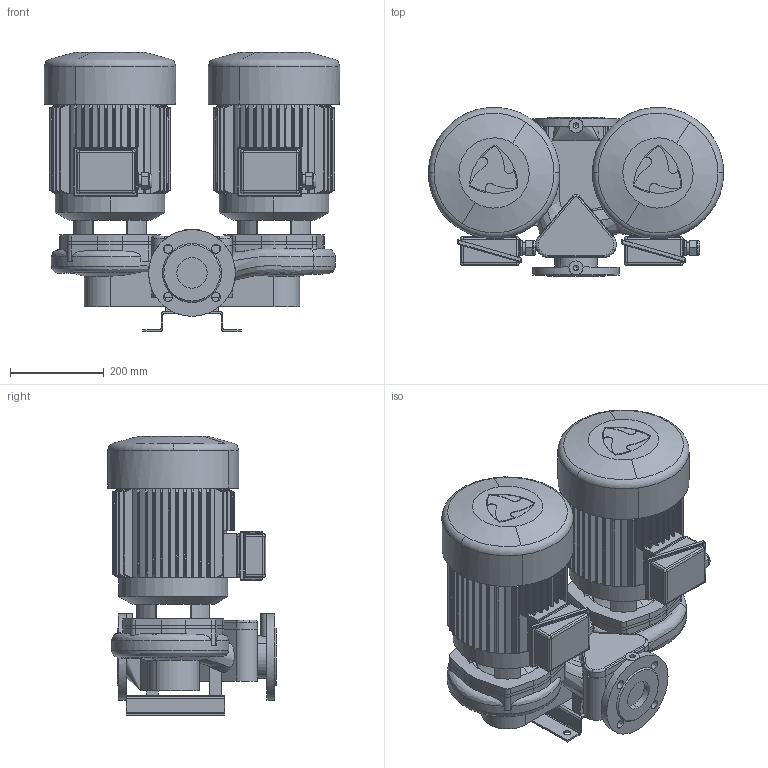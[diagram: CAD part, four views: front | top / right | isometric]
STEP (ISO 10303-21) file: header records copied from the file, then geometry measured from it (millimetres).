
FILE_DESCRIPTION(('STEP AP214'),'1');
FILE_NAME('export.stp','2018-05-30T07:51:04',(' '),(' '),'Spatial InterOp 3D',' ',' ');
FILE_SCHEMA(('AUTOMOTIVE_DESIGN { 1 0 10303 214 1 1 1 1 }'));
Length unit declared in the file: millimetre
Products named in the file (15): W_T65B2750_KP132; V_TLL65AB80A1102; V_PPT65AB; V_JALKA35973; V_MOKN132; RU_OKN_132; TSUOJA_OKN_132_133; KYTKOTELO_OKN_100_133; V_Mkp-132_F19; V_EKF19OKN132
Assembly tree (16 placements, depth 4):
  W_T65B2750_KP132
    V_TLL65AB80A1102  x2
    V_PPT65AB
    V_JALKA35973
    V_Mkp-132_F19
      V_MOKN132
        RU_OKN_132
        TSUOJA_OKN_132_133
        KYTKOTELO_OKN_100_133
      V_EKF19OKN132
    V_Mkp-132_F19
      V_MOKN132
        RU_OKN_132
        TSUOJA_OKN_132_133
        KYTKOTELO_OKN_100_133
      V_EKF19OKN132
Bounding box: 630 x 359.92 x 595.5 mm (x, y, z)
Volume: 54399180.7 mm3; surface area: 3145603.4 mm2
Topology: 12 solids, 14 shells, 1423 faces, 3668 edges, 2285 vertices
Faces by surface type: cylinder 617, plane 540, cone 176, bspline 36, torus 30, sphere 24
Entity records: 71530 total; most frequent: CARTESIAN_POINT 15988, ORIENTED_EDGE 6830, DIRECTION 6325, STYLED_ITEM 4017, PRESENTATION_STYLE_ASSIGNMENT 4017, COLOUR_RGB 4017, EDGE_CURVE 3415, CURVE_STYLE 2666
